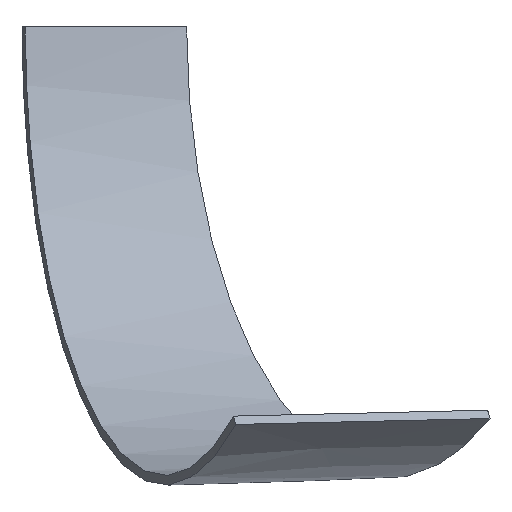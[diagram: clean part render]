
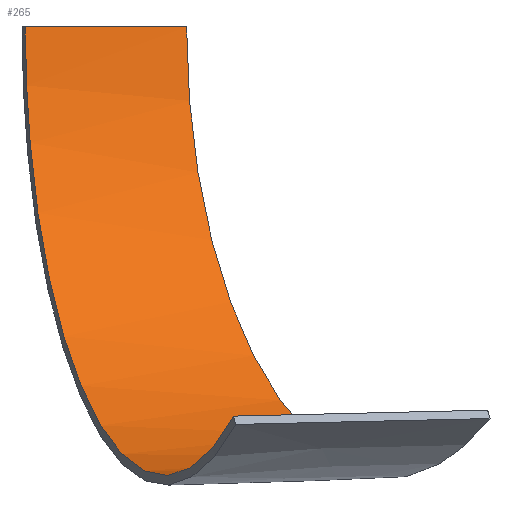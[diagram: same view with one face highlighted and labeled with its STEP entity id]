
A CAD part, front view. The second image highlights one B-rep face of the part: STEP entity #265.
In plain terms, the highlighted free-form (B-spline) face has degree [3, 1] with [10, 2] control points.
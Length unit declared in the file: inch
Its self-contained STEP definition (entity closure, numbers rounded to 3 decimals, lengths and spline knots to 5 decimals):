
#1 = CARTESIAN_POINT ( 'NONE',  ( 42.46601, -130.69693, -30.42732 ) ) ;
#7 = CARTESIAN_POINT ( 'NONE',  ( 33.30598, -102.50526, -33.43171 ) ) ;
#15 = VERTEX_POINT ( 'NONE', #266 ) ;
#16 = CARTESIAN_POINT ( 'NONE',  ( 33.30598, -102.50526, -33.43171 ) ) ;
#17 = ORIENTED_EDGE ( 'NONE', *, *, #108, .F. ) ;
#18 = CARTESIAN_POINT ( 'NONE',  ( 42.46601, -130.69693, -30.42732 ) ) ;
#23 = CARTESIAN_POINT ( 'NONE',  ( 26.75782, -82.35211, -12.27916 ) ) ;
#27 = EDGE_CURVE ( 'NONE', #168, #188, #117, .T. ) ;
#28 = CARTESIAN_POINT ( 'NONE',  ( 59.88836, -117.53753, -32.96835 ) ) ;
#41 = CARTESIAN_POINT ( 'NONE',  ( 62.26809, -122.20801, -29.96724 ) ) ;
#44 = VERTEX_POINT ( 'NONE', #72 ) ;
#48 = CARTESIAN_POINT ( 'NONE',  ( 55.6674, -125.03765, -30.1206 ) ) ;
#63 = CARTESIAN_POINT ( 'NONE',  ( 34.61714, -77.6958, -0.125 ) ) ;
#66 = CARTESIAN_POINT ( 'NONE',  ( 44.26565, -86.87623, -26.88488 ) ) ;
#71 = CARTESIAN_POINT ( 'NONE',  ( 62.26809, -122.20801, -29.96724 ) ) ;
#72 = CARTESIAN_POINT ( 'NONE',  ( 26.2472, -80.78057, -0.125 ) ) ;
#73 = CARTESIAN_POINT ( 'NONE',  ( 26.2472, -80.78057, -0.125 ) ) ;
#74 = EDGE_LOOP ( 'NONE', ( #17, #96, #173, #106 ) ) ;
#75 = CARTESIAN_POINT ( 'NONE',  ( 51.70833, -101.48331, -34.52026 ) ) ;
#84 = CARTESIAN_POINT ( 'NONE',  ( 40.82125, -125.63487, -33.47506 ) ) ;
#87 = CARTESIAN_POINT ( 'NONE',  ( 30.43217, -79.23819, -0.125 ) ) ;
#96 = ORIENTED_EDGE ( 'NONE', *, *, #324, .F. ) ;
#97 = EDGE_CURVE ( 'NONE', #188, #44, #132, .T. ) ;
#104 = CARTESIAN_POINT ( 'NONE',  ( 42.29189, -83.0025, -22.54515 ) ) ;
#105 = CARTESIAN_POINT ( 'NONE',  ( 38.8021, -76.15342, -0.125 ) ) ;
#106 = ORIENTED_EDGE ( 'NONE', *, *, #27, .F. ) ;
#108 = EDGE_CURVE ( 'NONE', #15, #168, #263, .T. ) ;
#117 = B_SPLINE_CURVE_WITH_KNOTS ( 'NONE', 3,
 ( #71, #48, #234, #316 ),
 .UNSPECIFIED., .F., .F.,
 ( 4, 4 ),
 ( 0., 1. ),
 .UNSPECIFIED. ) ;
#126 = CARTESIAN_POINT ( 'NONE',  ( 57.19264, -112.24688, -34.54213 ) ) ;
#128 = CARTESIAN_POINT ( 'NONE',  ( 49.01521, -96.19777, -32.925 ) ) ;
#132 = B_SPLINE_CURVE_WITH_KNOTS ( 'NONE', 3,
 ( #18, #236, #187, #262, #16, #313, #314, #23, #176, #73 ),
 .UNSPECIFIED., .F., .F.,
 ( 4, 2, 2, 2, 4 ),
 ( 0., 0.25, 0.5, 0.75, 1. ),
 .UNSPECIFIED. ) ;
#133 = FACE_OUTER_BOUND ( 'NONE', #74, .T. ) ;
#134 = CARTESIAN_POINT ( 'NONE',  ( 28.65899, -88.2033, -22.89154 ) ) ;
#135 = CARTESIAN_POINT ( 'NONE',  ( 26.2472, -80.78057, -0.125 ) ) ;
#147 = CARTESIAN_POINT ( 'NONE',  ( 39.54113, -77.60385, -12.09429 ) ) ;
#155 = CARTESIAN_POINT ( 'NONE',  ( 59.88836, -117.53753, -32.96835 ) ) ;
#159 = CARTESIAN_POINT ( 'NONE',  ( 38.8021, -76.15342, -0.125 ) ) ;
#161 = CARTESIAN_POINT ( 'NONE',  ( 30.02319, -92.40188, -27.29833 ) ) ;
#168 = VERTEX_POINT ( 'NONE', #248 ) ;
#172 = CARTESIAN_POINT ( 'NONE',  ( 39.54113, -77.60385, -12.09429 ) ) ;
#173 = ORIENTED_EDGE ( 'NONE', *, *, #97, .F. ) ;
#176 = CARTESIAN_POINT ( 'NONE',  ( 26.25396, -80.80137, -6.25834 ) ) ;
#177 = CARTESIAN_POINT ( 'NONE',  ( 38.81203, -76.1729, -6.16509 ) ) ;
#183 = CARTESIAN_POINT ( 'NONE',  ( 57.19264, -112.24688, -34.54213 ) ) ;
#184 = CARTESIAN_POINT ( 'NONE',  ( 42.29189, -83.0025, -22.54515 ) ) ;
#187 = CARTESIAN_POINT ( 'NONE',  ( 38.95804, -119.90052, -35.07338 ) ) ;
#188 = VERTEX_POINT ( 'NONE', #1 ) ;
#194 = CARTESIAN_POINT ( 'NONE',  ( 26.2472, -80.78057, -0.125 ) ) ;
#201 = CARTESIAN_POINT ( 'NONE',  ( 38.95804, -119.90052, -35.07338 ) ) ;
#205 = CARTESIAN_POINT ( 'NONE',  ( 42.46601, -130.69693, -30.42732 ) ) ;
#223 = CARTESIAN_POINT ( 'NONE',  ( 62.26809, -122.20801, -29.96724 ) ) ;
#234 = CARTESIAN_POINT ( 'NONE',  ( 49.0667, -127.86729, -30.27396 ) ) ;
#236 = CARTESIAN_POINT ( 'NONE',  ( 40.82125, -125.63487, -33.47506 ) ) ;
#238 = B_SPLINE_CURVE_WITH_KNOTS ( 'NONE', 3,
 ( #135, #87, #63, #159 ),
 .UNSPECIFIED., .F., .F.,
 ( 4, 4 ),
 ( 0., 1. ),
 .UNSPECIFIED. ) ;
#243 = CARTESIAN_POINT ( 'NONE',  ( 26.75782, -82.35211, -12.27916 ) ) ;
#248 = CARTESIAN_POINT ( 'NONE',  ( 62.26809, -122.20801, -29.96724 ) ) ;
#256 = CARTESIAN_POINT ( 'NONE',  ( 49.01521, -96.19777, -32.925 ) ) ;
#262 = CARTESIAN_POINT ( 'NONE',  ( 35.16741, -108.23416, -35.05151 ) ) ;
#263 = B_SPLINE_CURVE_WITH_KNOTS ( 'NONE', 3,
 ( #270, #177, #172, #104, #274, #128, #75, #126, #28, #223 ),
 .UNSPECIFIED., .F., .F.,
 ( 4, 2, 2, 2, 4 ),
 ( 0., 0.25, 0.5, 0.75, 1. ),
 .UNSPECIFIED. ) ;
#265 = ADVANCED_FACE ( 'NONE', ( #133 ), #278, .F. ) ;
#266 = CARTESIAN_POINT ( 'NONE',  ( 38.8021, -76.15342, -0.125 ) ) ;
#270 = CARTESIAN_POINT ( 'NONE',  ( 38.8021, -76.15342, -0.125 ) ) ;
#274 = CARTESIAN_POINT ( 'NONE',  ( 44.26565, -86.87623, -26.88488 ) ) ;
#278 = B_SPLINE_SURFACE_WITH_KNOTS ( 'NONE', 3, 1, ( 
 ( #105, #194 ),
 ( #297, #292 ),
 ( #147, #243 ),
 ( #184, #134 ),
 ( #66, #161 ),
 ( #256, #7 ),
 ( #301, #284 ),
 ( #183, #201 ),
 ( #155, #84 ),
 ( #41, #205 ) ),
 .UNSPECIFIED., .F., .F., .F.,
 ( 4, 2, 2, 2, 4 ),
 ( 2, 2 ),
 ( 0., 0.25, 0.5, 0.75, 1. ),
 ( 0., 1. ),
 .UNSPECIFIED. ) ;
#284 = CARTESIAN_POINT ( 'NONE',  ( 35.16741, -108.23416, -35.05151 ) ) ;
#292 = CARTESIAN_POINT ( 'NONE',  ( 26.25396, -80.80137, -6.25834 ) ) ;
#297 = CARTESIAN_POINT ( 'NONE',  ( 38.81203, -76.1729, -6.16509 ) ) ;
#301 = CARTESIAN_POINT ( 'NONE',  ( 51.70833, -101.48331, -34.52026 ) ) ;
#313 = CARTESIAN_POINT ( 'NONE',  ( 30.02319, -92.40188, -27.29833 ) ) ;
#314 = CARTESIAN_POINT ( 'NONE',  ( 28.65899, -88.2033, -22.89154 ) ) ;
#316 = CARTESIAN_POINT ( 'NONE',  ( 42.46601, -130.69693, -30.42732 ) ) ;
#324 = EDGE_CURVE ( 'NONE', #44, #15, #238, .T. ) ;
